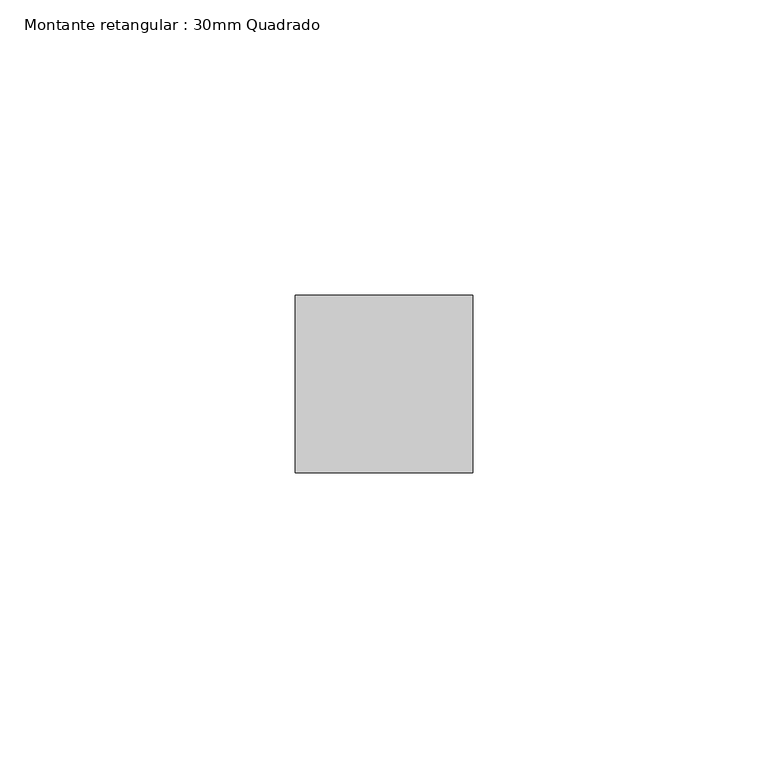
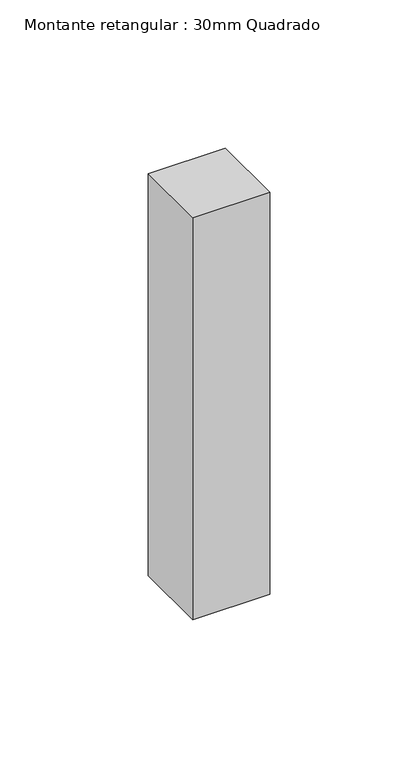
"""IFC4 building model written with IfcOpenShell, lengths in millimetres: member geometry, Montante retangular : 30mm Quadrado."""

import ifcopenshell
import ifcopenshell.guid

model = None  # the IFC model being written
_history = None  # IfcOwnerHistory: only IFC2X3 demands one
_inside = {}  # id of a spatial element -> (the spatial element, [elements in it])
_under = {}  # id of a project, library or spatial element -> (it, [spatial elements below it])
_declared = {}  # id of a project -> (the project, [libraries it declares])
_typed = {}  # id of a type object -> (the type object, [elements of that type])
_made_of = {}  # id of a material, layer set ... -> (it, [elements and type objects made of it])


def new_model(schema):
    """Start an empty IFC model of exactly this schema.

    Asked for "IFC4X3", IfcOpenShell would pick the latest addendum, in which some entities
    have other attributes; the version numbers below select the first issue.
    IFC2X3 requires an IfcOwnerHistory on every rooted entity: one is made here for all.
    """
    global model, _history
    if schema == "IFC4X3":
        model = ifcopenshell.file(schema_version=(4, 3, 0, 0))
    else:
        model = ifcopenshell.file(schema=schema)
    _inside.clear()
    _under.clear()
    _declared.clear()
    _typed.clear()
    _made_of.clear()
    _history = None
    if model.schema == "IFC2X3":
        org = make("IfcOrganization", Name="unknown")
        user = make(
            "IfcPersonAndOrganization",
            ThePerson=make("IfcPerson", FamilyName="unknown"),
            TheOrganization=org,
        )
        app = make(
            "IfcApplication",
            ApplicationDeveloper=org,
            Version="unknown",
            ApplicationFullName="unknown",
            ApplicationIdentifier="unknown",
        )
        _history = make(
            "IfcOwnerHistory",
            OwningUser=user,
            OwningApplication=app,
            ChangeAction="ADDED",
            CreationDate=0,
        )
    return model


def make(cls, **values):
    """One entity of the class cls with the attributes given. An attribute that is None is left unset."""
    return model.create_entity(
        cls, **{name: value for name, value in values.items() if value is not None}
    )


def rooted(cls, **values):
    """An entity with a GlobalId (a new one), such as an element, a storey or a relation."""
    return make(cls, GlobalId=ifcopenshell.guid.new(), OwnerHistory=_history, **values)


def si_unit(unit_type, name, prefix=None):
    """IfcSIUnit, for example si_unit("LENGTHUNIT", "METRE", prefix="MILLI")."""
    return make("IfcSIUnit", UnitType=unit_type, Prefix=prefix, Name=name)


def assignment(units):
    """IfcUnitAssignment: the units of a project."""
    return None if units is None else make("IfcUnitAssignment", Units=units)


def point(xyz):
    """IfcCartesianPoint."""
    return None if xyz is None else make("IfcCartesianPoint", Coordinates=xyz)


def direction(xyz):
    """IfcDirection."""
    return None if xyz is None else make("IfcDirection", DirectionRatios=xyz)


def frame(location, z_axis=None, x_axis=None):
    """IfcAxis2Placement3D, a coordinate frame: its origin and axes. An axis left out is left unset."""
    return make(
        "IfcAxis2Placement3D",
        Location=point(location),
        Axis=direction(z_axis),
        RefDirection=direction(x_axis),
    )


def origin():
    """The frame at (0, 0, 0) with its axes left unset."""
    return frame((0.0, 0.0, 0.0))


def place(relative_to, where):
    """IfcLocalPlacement: puts the frame where relative to a parent placement (None: the world)."""
    return make(
        "IfcLocalPlacement", PlacementRelTo=relative_to, RelativePlacement=where
    )


def context(
    kind, dimensions, precision=None, world=None, true_north=None, identifier=None
):
    """IfcGeometricRepresentationContext, for example the 3D "Model" context."""
    return make(
        "IfcGeometricRepresentationContext",
        ContextIdentifier=identifier,
        ContextType=kind,
        CoordinateSpaceDimension=dimensions,
        Precision=precision,
        WorldCoordinateSystem=world,
        TrueNorth=true_north,
    )


def project(units=None, contexts=None):
    """IfcProject with its units and contexts."""
    return rooted(
        "IfcProject",
        Name="project",
        RepresentationContexts=contexts,
        UnitsInContext=assignment(units),
    )


def spatial(cls, under=None, at=None, **own):
    """A site, building, storey or space (cls), placed at a placement, below another one or the project."""
    s = rooted(cls, ObjectPlacement=at, **own)
    if under is not None:
        _under.setdefault(under.id(), (under, []))[1].append(s)
    return s


def polyline(points):
    """IfcPolyline through the points."""
    return make("IfcPolyline", Points=[point(p) for p in points])


def outline(outer, holes=None, kind="AREA"):
    """IfcArbitraryClosedProfileDef: a profile drawn as a closed curve; with holes, ...WithVoids."""
    if holes is None:
        return make("IfcArbitraryClosedProfileDef", ProfileType=kind, OuterCurve=outer)
    return make(
        "IfcArbitraryProfileDefWithVoids",
        ProfileType=kind,
        OuterCurve=outer,
        InnerCurves=holes,
    )


def extrude(swept, where, along, depth):
    """IfcExtrudedAreaSolid: the profile swept, set in the frame where, extruded along a direction by depth."""
    return make(
        "IfcExtrudedAreaSolid",
        SweptArea=swept,
        Position=where,
        ExtrudedDirection=direction(along),
        Depth=depth,
    )


def shape(context_of_items, identifier, shape_type, items):
    """IfcShapeRepresentation: the items that make up one representation, for example the "Body"."""
    return make(
        "IfcShapeRepresentation",
        ContextOfItems=context_of_items,
        RepresentationIdentifier=identifier,
        RepresentationType=shape_type,
        Items=items,
    )


def source(mapping_origin, context_of_items, identifier, shape_type, items):
    """IfcRepresentationMap: a shape defined once, which mapped items show again and again."""
    return make(
        "IfcRepresentationMap",
        MappingOrigin=mapping_origin,
        MappedRepresentation=shape(context_of_items, identifier, shape_type, items),
    )


def transform(
    local_origin,
    x_axis=None,
    y_axis=None,
    z_axis=None,
    scale=None,
    scale2=None,
    scale3=None,
    uniform=True,
):
    """IfcCartesianTransformationOperator3D, or its non-uniform kind. x_axis, y_axis, z_axis: its Axis1, 2, 3."""
    if uniform:
        return make(
            "IfcCartesianTransformationOperator3D",
            Axis1=direction(x_axis),
            Axis2=direction(y_axis),
            LocalOrigin=point(local_origin),
            Scale=scale,
            Axis3=direction(z_axis),
        )
    return make(
        "IfcCartesianTransformationOperator3DnonUniform",
        Axis1=direction(x_axis),
        Axis2=direction(y_axis),
        LocalOrigin=point(local_origin),
        Scale=scale,
        Axis3=direction(z_axis),
        Scale2=scale2,
        Scale3=scale3,
    )


def mapped(mapping_source, mapping_target):
    """IfcMappedItem: shows the shape of a source again, moved by a transform."""
    return make(
        "IfcMappedItem", MappingSource=mapping_source, MappingTarget=mapping_target
    )


def made_of(thing, what):
    """Note that an element or type object is made of a material, layer set ...; save() writes the relation."""
    if what is not None:
        _made_of.setdefault(what.id(), (what, []))[1].append(thing)
    return thing


def element(
    cls,
    number,
    at=None,
    inside=None,
    cuts=None,
    type_object=None,
    material=None,
    context=None,
    identifier="Body",
    shape_type=None,
    held_by="IfcProductDefinitionShape",
    body=None,
    shapes=None,
    **own,
):
    """One element of the class cls, such as IfcWall. Its Tag is "e" and its number.

    at: its placement. inside: the storey or other place that contains it. cuts: it is an
    opening in that element (IfcRelVoidsElement). A single representation is given by context,
    identifier, shape_type and body (its items); several are given by shapes. held_by: the class
    of the entity that holds the representations. save() writes the other relations.
    """
    e = rooted(cls, Tag="e%d" % number, ObjectPlacement=at, **own)
    if body is not None:
        shapes = [shape(context, identifier, shape_type, body)]
    if shapes is not None:
        e.Representation = make(held_by, Representations=shapes)
    if inside is not None:
        _inside.setdefault(inside.id(), (inside, []))[1].append(e)
    if cuts is not None:
        rooted(
            "IfcRelVoidsElement", RelatingBuildingElement=cuts, RelatedOpeningElement=e
        )
    if type_object is not None:
        _typed.setdefault(type_object.id(), (type_object, []))[1].append(e)
    return made_of(e, material)


def aggregate(whole, parts):
    """IfcRelAggregates: a whole, such as a stair, and the parts it consists of."""
    return rooted("IfcRelAggregates", RelatingObject=whole, RelatedObjects=parts)


def save(model, path):
    """Write the relations noted so far, then the file.

    IfcRelAggregates (storeys below a building ...), IfcRelContainedInSpatialStructure (elements
    in a storey), IfcRelDefinesByType, IfcRelAssociatesMaterial and IfcRelDeclares: one each for
    every whole, place, type object, material and project.
    """
    for whole, parts in _under.values():
        aggregate(whole, parts)
    for where, things in _inside.values():
        rooted(
            "IfcRelContainedInSpatialStructure",
            RelatedElements=things,
            RelatingStructure=where,
        )
    for kind, things in _typed.values():
        rooted("IfcRelDefinesByType", RelatedObjects=things, RelatingType=kind)
    for what, things in _made_of.values():
        rooted("IfcRelAssociatesMaterial", RelatedObjects=things, RelatingMaterial=what)
    for by, libraries in _declared.values():
        rooted("IfcRelDeclares", RelatingContext=by, RelatedDefinitions=libraries)
    model.write(path)


def montante_retangular_30mm_quadrado_921f6540(model_context):
    return source(origin(), model_context, "Body", "SweptSolid", [
        extrude(outline(polyline([(15.0, 15.0), (15.0, -15.0), (-15.0, -15.0), (-15.0, 15.0), (15.0, 15.0)])), frame((0.0, 0.0, -165.4776858), z_axis=(0.0, 0.0, 1.0), x_axis=(1.0, 0.0, 0.0)), (0.0, 0.0, 1.0), 165.4776858),
    ])


if __name__ == "__main__":
    model = new_model("IFC4")
    model_context = context("Model", 3, world=origin())
    ifc_project = project(units=[si_unit("LENGTHUNIT", "METRE", prefix="MILLI")], contexts=[model_context])
    site = spatial("IfcSite", under=ifc_project)
    building = spatial("IfcBuilding", under=site)
    placement = place(None, origin())
    montante_retangular_30mm_quadrado_shape = montante_retangular_30mm_quadrado_921f6540(model_context)
    element("IfcMember", 1, ObjectType="Montante retangular : 30mm Quadrado", at=placement, inside=building, context=model_context, shape_type="MappedRepresentation", body=[
        mapped(montante_retangular_30mm_quadrado_shape, transform((0.0, 0.0, 0.0), x_axis=(1.0, 0.0, 0.0), y_axis=(0.0, 1.0, 0.0), z_axis=(0.0, 0.0, 1.0))),
    ])
    save(model, "model.ifc")
